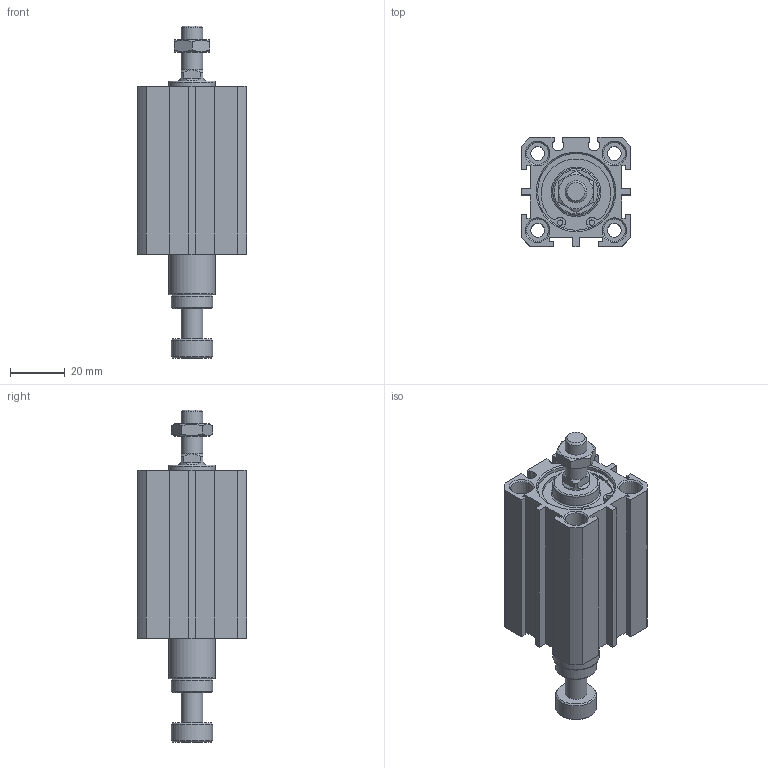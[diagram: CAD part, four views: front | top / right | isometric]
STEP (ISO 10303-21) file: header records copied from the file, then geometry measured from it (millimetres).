
FILE_DESCRIPTION((''),'2;1');
FILE_NAME('I:\3D電子目錄\氣缸\JDAR\JDAR-BS\JDAR25-BS\JDAR25x30-BS.stp','2007-05-05T11:19:34',('662F206'),(''),'Autodesk Inventor 11','Autodesk Inventor 11','');
FILE_SCHEMA(('AUTOMOTIVE_DESIGN { 1 0 10303 214 1 1 1 1 }'));
Length unit declared in the file: millimetre
Products named in the file (3): JDAR25-BS; R 形環 28
Assembly tree (3 placements, depth 2):
  JDAR25-BS
    JDAR25-BS
    R 形環 28  x2
Bounding box: 40 x 40 x 121.1 mm (x, y, z)
Volume: 84320.6 mm3; surface area: 26174.7 mm2
Topology: 3 solids, 3 shells, 175 faces, 406 edges, 263 vertices
Faces by surface type: plane 94, cylinder 50, cone 23, bspline 6, torus 2
Full cylindrical faces by diameter (mm): 1.5 x2, 1.9 x4, 5.1 x4, 8 x11, 10 x1, 15 x2, 17 x2, 28 x4, 29.4 x2
Entity records: 4479 total; most frequent: CARTESIAN_POINT 889, DIRECTION 742, ORIENTED_EDGE 630, EDGE_CURVE 315, AXIS2_PLACEMENT_3D 284, EDGE_LOOP 256, VERTEX_POINT 237, VECTOR 174
